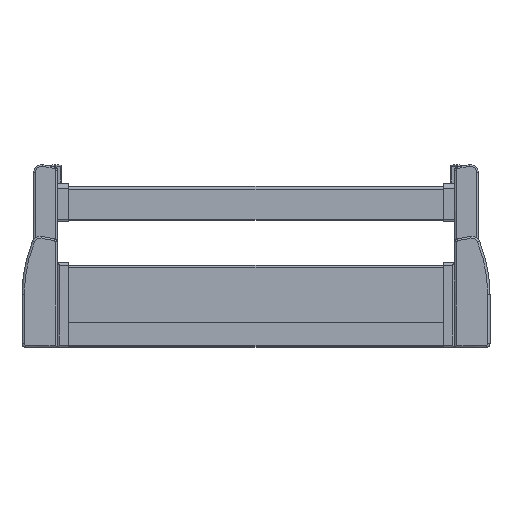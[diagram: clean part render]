
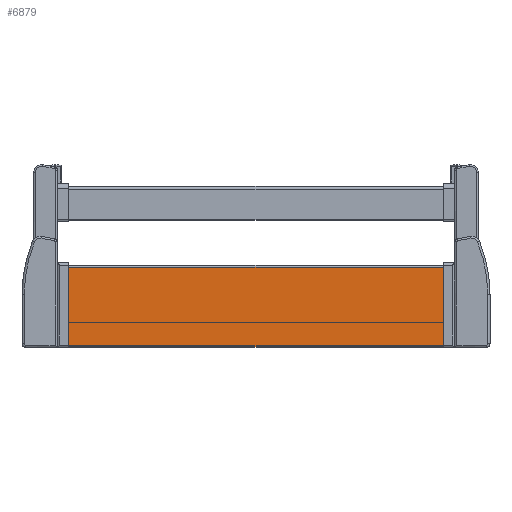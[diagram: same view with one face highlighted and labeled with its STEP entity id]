
A CAD part, top view. The second image highlights one B-rep face of the part: STEP entity #6879.
In plain terms, the highlighted planar face has unit normal (0, 0, 1).
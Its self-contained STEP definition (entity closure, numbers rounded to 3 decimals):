
#139 = ORIENTED_EDGE ( 'NONE', *, *, #140, .F. ) ;
#140 = EDGE_CURVE ( 'NONE', #6876, #7058, #939, .T. ) ;
#936 = DIRECTION ( 'NONE',  ( 0., 1., 0. ) ) ;
#937 = VECTOR ( 'NONE', #936, 1000. ) ;
#938 = CARTESIAN_POINT ( 'NONE',  ( -163.8, -92.5, 1.4 ) ) ;
#939 = LINE ( 'NONE', #938, #937 ) ;
#4443 = CARTESIAN_POINT ( 'NONE',  ( 163.8, -92.5, 1.4 ) ) ;
#4444 = DIRECTION ( 'NONE',  ( 0., 1., 0. ) ) ;
#4445 = VECTOR ( 'NONE', #4444, 1000. ) ;
#4446 = CARTESIAN_POINT ( 'NONE',  ( 163.8, -92.5, 1.4 ) ) ;
#4447 = LINE ( 'NONE', #4446, #4445 ) ;
#4559 = CARTESIAN_POINT ( 'NONE',  ( 163.8, -23., 1.4 ) ) ;
#4880 = LINE ( 'NONE', #4904, #4903 ) ;
#4901 = CARTESIAN_POINT ( 'NONE',  ( -163.8, -92.5, 1.4 ) ) ;
#4902 = DIRECTION ( 'NONE',  ( -1., 0., 0. ) ) ;
#4903 = VECTOR ( 'NONE', #4902, 1000. ) ;
#4904 = CARTESIAN_POINT ( 'NONE',  ( 237.556, -92.5, 1.4 ) ) ;
#4906 = DIRECTION ( 'NONE',  ( 0., 1., 0. ) ) ;
#4907 = DIRECTION ( 'NONE',  ( 0., 0., -1. ) ) ;
#4908 = CARTESIAN_POINT ( 'NONE',  ( 237.556, -92.5, 1.4 ) ) ;
#4917 = FACE_OUTER_BOUND ( 'NONE', #6880, .T. ) ;
#4952 = AXIS2_PLACEMENT_3D ( 'NONE', #4908, #4907, #4906 ) ;
#4954 = PLANE ( 'NONE',  #4952 ) ;
#5220 = CARTESIAN_POINT ( 'NONE',  ( -163.8, -23., 1.4 ) ) ;
#5236 = DIRECTION ( 'NONE',  ( -1., 0., 0. ) ) ;
#5237 = VECTOR ( 'NONE', #5236, 1000. ) ;
#5238 = CARTESIAN_POINT ( 'NONE',  ( 237.556, -23., 1.4 ) ) ;
#5239 = LINE ( 'NONE', #5238, #5237 ) ;
#6662 = EDGE_CURVE ( 'NONE', #6663, #6691, #4447, .T. ) ;
#6663 = VERTEX_POINT ( 'NONE', #4443 ) ;
#6691 = VERTEX_POINT ( 'NONE', #4559 ) ;
#6875 = EDGE_CURVE ( 'NONE', #6663, #6876, #4880, .T. ) ;
#6876 = VERTEX_POINT ( 'NONE', #4901 ) ;
#6879 = ADVANCED_FACE ( 'NONE', ( #4917 ), #4954, .F. ) ;
#6880 = EDGE_LOOP ( 'NONE', ( #6881, #6882, #7057, #139 ) ) ;
#6881 = ORIENTED_EDGE ( 'NONE', *, *, #6875, .F. ) ;
#6882 = ORIENTED_EDGE ( 'NONE', *, *, #6662, .T. ) ;
#7046 = EDGE_CURVE ( 'NONE', #6691, #7058, #5239, .T. ) ;
#7057 = ORIENTED_EDGE ( 'NONE', *, *, #7046, .T. ) ;
#7058 = VERTEX_POINT ( 'NONE', #5220 ) ;
